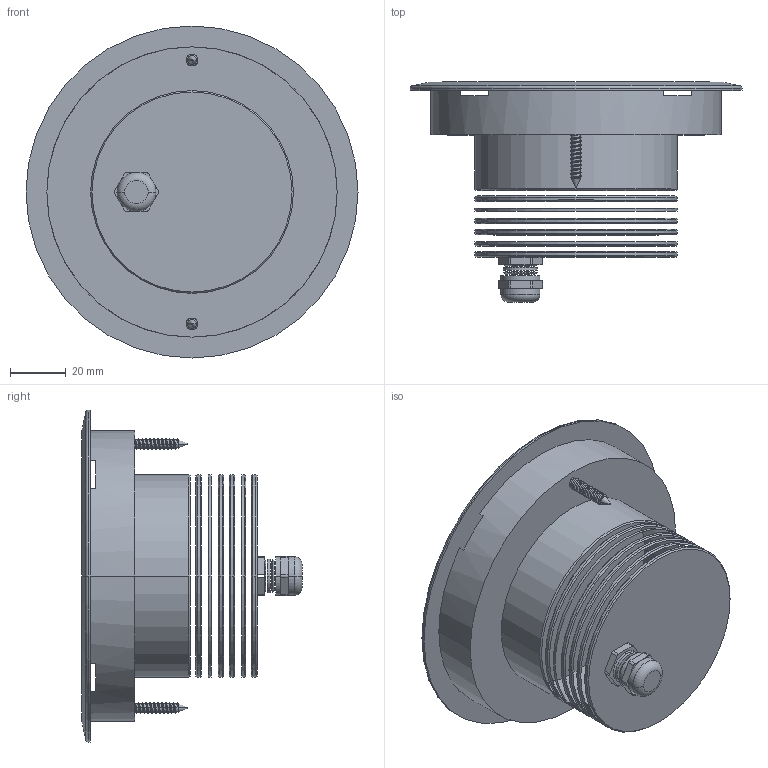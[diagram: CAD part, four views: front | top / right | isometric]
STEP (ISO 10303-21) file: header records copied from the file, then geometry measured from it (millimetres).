
FILE_DESCRIPTION((''),'2;1');
FILE_NAME('CNC120','2025-07-30T12:02:28',('Minervini'),(''),'CREO PARAMETRIC BY PTC INC, 2025010','CREO PARAMETRIC BY PTC INC, 2025010','');
FILE_SCHEMA(('CONFIG_CONTROL_DESIGN'));
Length unit declared in the file: millimetre
Products named in the file (1): CNC120
Bounding box: 119.5 x 79.2 x 119.5 mm (x, y, z)
Surface area: 54006.5 mm2 (no closed solid volume)
Topology: 0 solids, 19 shells, 194 faces, 570 edges, 380 vertices
Faces by surface type: cylinder 126, cone 32, plane 20, bspline 12, torus 4
Entity records: 15537 total; most frequent: CARTESIAN_POINT 10866, ORIENTED_EDGE 910, DIRECTION 868, EDGE_CURVE 570, VERTEX_POINT 380, AXIS2_PLACEMENT_3D 322, VECTOR 224, LINE 224
